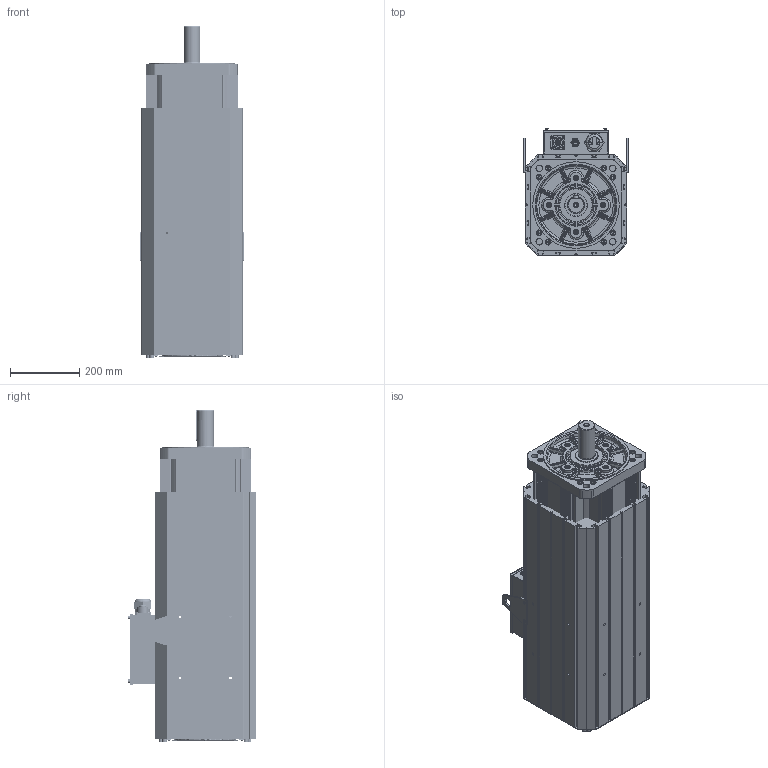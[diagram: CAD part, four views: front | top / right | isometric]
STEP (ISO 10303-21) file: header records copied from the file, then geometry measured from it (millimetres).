
FILE_DESCRIPTION (( 'STEP AP214' ), '1' );
FILE_NAME ('VM7-M26D-04515-D2FNH.STEP', '2022-04-02T01:19:49', ( '' ), ( '' ), 'SwSTEP 2.0', 'SolidWorks 2014', '' );
FILE_SCHEMA (( 'AUTOMOTIVE_DESIGN' ));
Length unit declared in the file: millimetre
Products named in the file (3): VM7-M26D-04515-D2FNH; 翋极; 俋褲
Assembly tree (2 placements, depth 2):
  VM7-M26D-04515-D2FNH
    翋极
    俋褲
Bounding box: 302 x 368.5 x 959 mm (x, y, z)
Volume: 34805502.1 mm3; surface area: 4419905.3 mm2
Topology: 120 solids, 120 shells, 4432 faces, 11332 edges, 7180 vertices
Faces by surface type: plane 2597, cylinder 1089, bspline 445, cone 301
Entity records: 152572 total; most frequent: CARTESIAN_POINT 45525, ORIENTED_EDGE 22412, DIRECTION 21224, EDGE_CURVE 11206, LINE 7212, VECTOR 7212, VERTEX_POINT 7180, AXIS2_PLACEMENT_3D 7006
